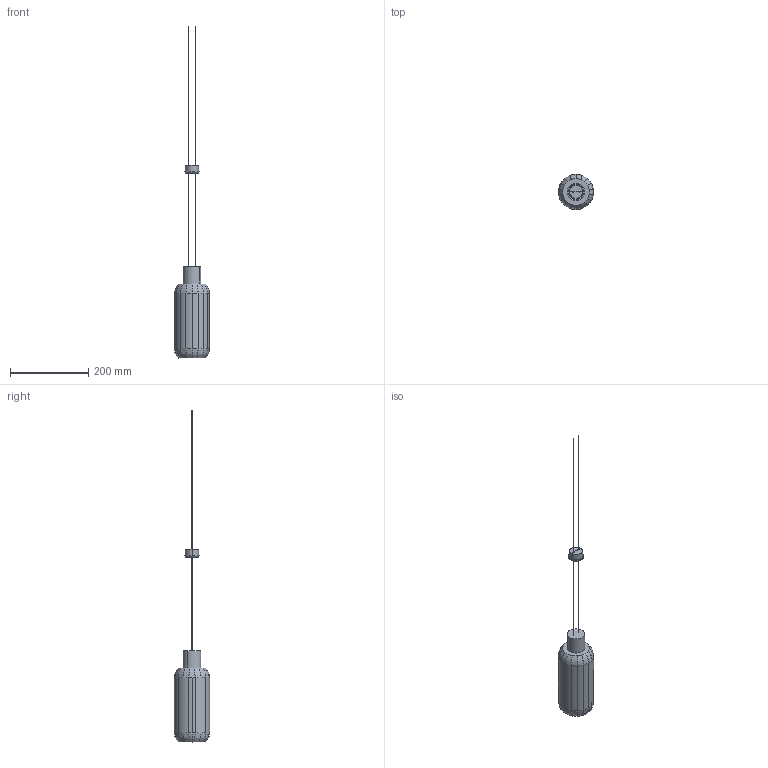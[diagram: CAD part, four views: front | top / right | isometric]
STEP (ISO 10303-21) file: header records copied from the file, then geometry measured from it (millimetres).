
FILE_DESCRIPTION(/* description */ (''),/* implementation_level */ '2;1');
FILE_NAME(/* name */ 'tili',/* time_stamp */ '2025-11-17T14:57:13-03:00',/* author */ (''),/* organization */ (''),/* preprocessor_version */ 'ST-DEVELOPER v19.2',/* originating_system */ 'Rhino 8.25',/* authorisation */ '');
FILE_SCHEMA (('CONFIG_CONTROL_DESIGN'));
Length unit declared in the file: millimetre
Products named in the file (1): Document
Bounding box: 89.92 x 90 x 846.99 mm (x, y, z)
Volume: 1243332.8 mm3; surface area: 112646.8 mm2
Topology: 6 solids, 6 shells, 247 faces, 695 edges, 461 vertices
Faces by surface type: plane 143, cylinder 77, bspline 27
Entity records: 9553 total; most frequent: CARTESIAN_POINT 4510, ORIENTED_EDGE 1390, EDGE_CURVE 695, VERTEX_POINT 461, DIRECTION 450, B_SPLINE_CURVE_WITH_KNOTS 421, AXIS2_PLACEMENT_3D 335, EDGE_LOOP 250
